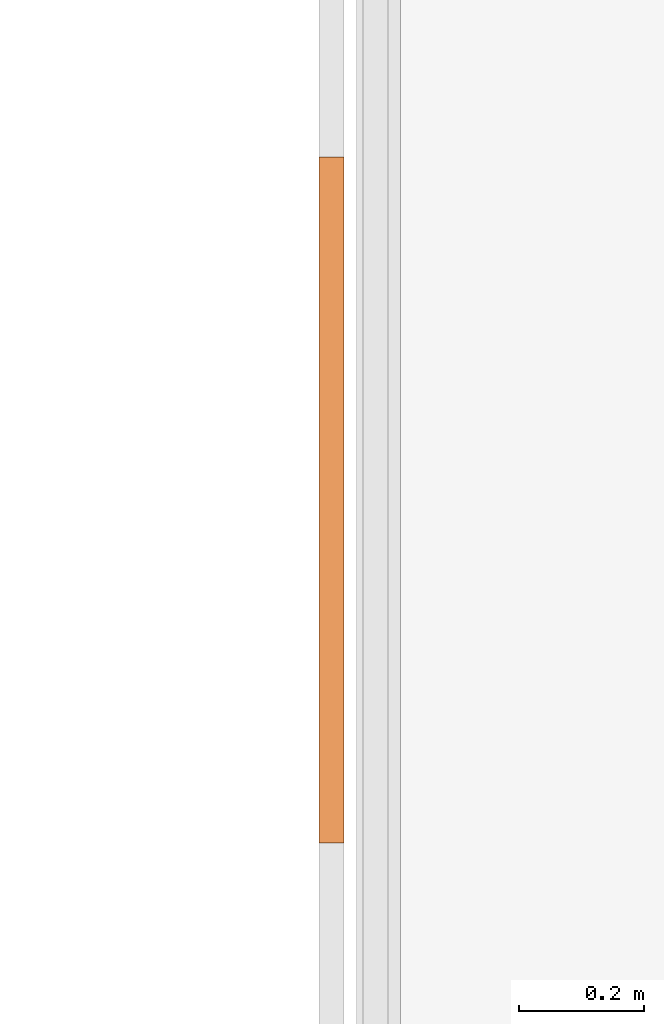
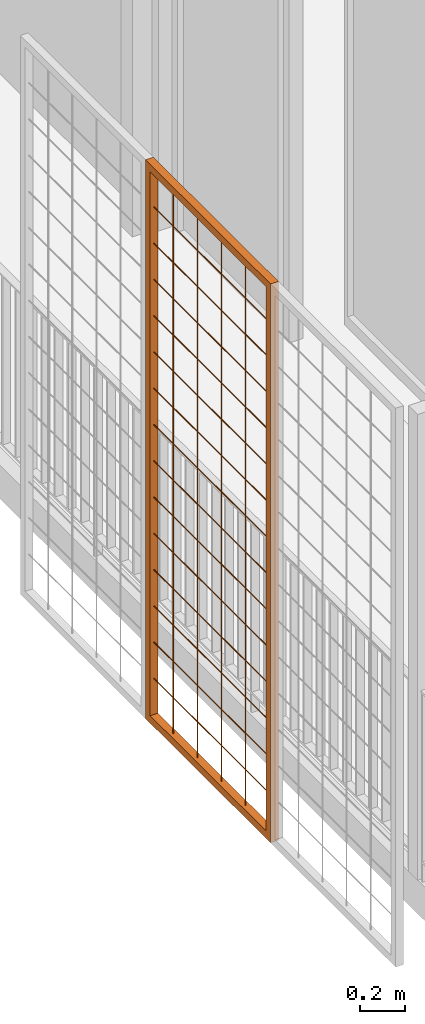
# One storey, part 41 of 51: 2 proxies.
"""IFC2X3 building model written with IfcOpenShell, lengths in metres."""

from ifc_helpers import new_model, entity, si_unit, converted_unit, derived_unit, direction, frame, frame_2d, origin, origin_2d_with_axis, place, context, subcontext, project, spatial, polyline, rectangle, outline, extrude, source, transform, mapped, material, type_object, type_shapes, element, save


model = new_model("IFC2X3")

# Units and contexts
model_context = context("Model", 3, precision=1e-05, world=origin(), true_north=direction((6.123031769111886e-17, 1.0)))
body_context = subcontext(model_context, "Body", "Model", "MODEL_VIEW")
ifc_project = project(units=[si_unit("LENGTHUNIT", "METRE"), si_unit("AREAUNIT", "SQUARE_METRE"), si_unit("VOLUMEUNIT", "CUBIC_METRE"), converted_unit("PLANEANGLEUNIT", "DEGREE", entity("IfcRatioMeasure", 0.017453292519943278), si_unit("PLANEANGLEUNIT", "RADIAN"), dimensions=[0, 0, 0, 0, 0, 0, 0]), si_unit("MASSUNIT", "GRAM", prefix="KILO"), derived_unit("MASSDENSITYUNIT", [(si_unit("MASSUNIT", "GRAM", prefix="KILO"), 1), (si_unit("LENGTHUNIT", "METRE"), -3)]), derived_unit("MOMENTOFINERTIAUNIT", [(si_unit("LENGTHUNIT", "METRE"), 4)]), si_unit("TIMEUNIT", "SECOND"), si_unit("FREQUENCYUNIT", "HERTZ"), si_unit("THERMODYNAMICTEMPERATUREUNIT", "DEGREE_CELSIUS"), derived_unit("THERMALTRANSMITTANCEUNIT", [(si_unit("MASSUNIT", "GRAM", prefix="KILO"), 1), (si_unit("THERMODYNAMICTEMPERATUREUNIT", "KELVIN"), -1), (si_unit("TIMEUNIT", "SECOND"), -3)]), derived_unit("THERMALCONDUCTANCEUNIT", [(si_unit("MASSUNIT", "GRAM", prefix="KILO"), 1), (si_unit("LENGTHUNIT", "METRE"), 1), (si_unit("THERMODYNAMICTEMPERATUREUNIT", "KELVIN"), -1), (si_unit("TIMEUNIT", "SECOND"), -3)]), derived_unit("VOLUMETRICFLOWRATEUNIT", [(si_unit("LENGTHUNIT", "METRE"), 3), (si_unit("TIMEUNIT", "SECOND"), -1)]), derived_unit("MASSFLOWRATEUNIT", [(si_unit("MASSUNIT", "GRAM", prefix="KILO"), 1), (si_unit("TIMEUNIT", "SECOND"), -1)]), derived_unit("ROTATIONALFREQUENCYUNIT", [(si_unit("TIMEUNIT", "SECOND"), -1)]), si_unit("ELECTRICCURRENTUNIT", "AMPERE"), si_unit("ELECTRICVOLTAGEUNIT", "VOLT"), si_unit("POWERUNIT", "WATT"), si_unit("FORCEUNIT", "NEWTON", prefix="KILO"), si_unit("ILLUMINANCEUNIT", "LUX"), si_unit("LUMINOUSFLUXUNIT", "LUMEN"), si_unit("LUMINOUSINTENSITYUNIT", "CANDELA"), derived_unit("USERDEFINED", [(si_unit("MASSUNIT", "GRAM", prefix="KILO"), -1), (si_unit("LENGTHUNIT", "METRE"), -2), (si_unit("TIMEUNIT", "SECOND"), 3), (si_unit("LUMINOUSFLUXUNIT", "LUMEN"), 1)]), derived_unit("USERDEFINED", [(si_unit("MASSUNIT", "GRAM", prefix="KILO"), 1), (si_unit("LENGTHUNIT", "METRE"), 3), (si_unit("TIMEUNIT", "SECOND"), -3), (si_unit("ELECTRICCURRENTUNIT", "AMPERE"), -2)]), derived_unit("USERDEFINED", [(si_unit("LENGTHUNIT", "METRE"), 2), (si_unit("TIMEUNIT", "SECOND"), -2)]), derived_unit("SOUNDPOWERUNIT", [(si_unit("MASSUNIT", "GRAM", prefix="KILO"), 1), (si_unit("LENGTHUNIT", "METRE"), 2), (si_unit("TIMEUNIT", "SECOND"), -3)]), derived_unit("SOUNDPRESSUREUNIT", [(si_unit("MASSUNIT", "GRAM", prefix="KILO"), 1), (si_unit("LENGTHUNIT", "METRE"), -1), (si_unit("TIMEUNIT", "SECOND"), -2)]), derived_unit("LINEARVELOCITYUNIT", [(si_unit("LENGTHUNIT", "METRE"), 1), (si_unit("TIMEUNIT", "SECOND"), -1)]), si_unit("PRESSUREUNIT", "PASCAL"), derived_unit("USERDEFINED", [(si_unit("LENGTHUNIT", "METRE"), -2), (si_unit("MASSUNIT", "GRAM", prefix="KILO"), 1), (si_unit("TIMEUNIT", "SECOND"), -2)]), derived_unit("LINEARFORCEUNIT", [(si_unit("MASSUNIT", "GRAM", prefix="KILO"), 1), (si_unit("LENGTHUNIT", "METRE"), 1), (si_unit("TIMEUNIT", "SECOND"), -2), (si_unit("LENGTHUNIT", "METRE"), -1)]), derived_unit("PLANARFORCEUNIT", [(si_unit("MASSUNIT", "GRAM", prefix="KILO"), 1), (si_unit("LENGTHUNIT", "METRE"), 1), (si_unit("TIMEUNIT", "SECOND"), -2), (si_unit("LENGTHUNIT", "METRE"), -2)]), derived_unit("SPECIFICHEATCAPACITYUNIT", [(si_unit("LENGTHUNIT", "METRE"), 2), (si_unit("TIMEUNIT", "SECOND"), -2), (si_unit("THERMODYNAMICTEMPERATUREUNIT", "KELVIN"), -1)]), derived_unit("VAPORPERMEABILITYUNIT", [(si_unit("TIMEUNIT", "SECOND"), 1), (si_unit("LENGTHUNIT", "METRE"), -1)]), derived_unit("DYNAMICVISCOSITYUNIT", [(si_unit("MASSUNIT", "GRAM", prefix="KILO"), 1), (si_unit("LENGTHUNIT", "METRE"), -1), (si_unit("TIMEUNIT", "SECOND"), -1)]), derived_unit("THERMALEXPANSIONCOEFFICIENTUNIT", [(si_unit("THERMODYNAMICTEMPERATUREUNIT", "KELVIN"), -1)])], contexts=[model_context])

# Site, building, storey
site_placement = place(None, origin())
site = spatial("IfcSite", under=ifc_project, at=site_placement, Name="Default", CompositionType="ELEMENT")
building_placement = place(site_placement, origin())
building = spatial("IfcBuilding", under=site, at=building_placement, CompositionType="ELEMENT")
storey_placement = place(building_placement, frame((0.0, 0.0, 3.06)))
storey = spatial("IfcBuildingStorey", under=building, at=storey_placement, Name="ÉTAGE", CompositionType="ELEMENT", Elevation=3.06)

# Proxies
ifc_material = material(Name="Peinture - Gris foncé")
building_element_proxy_type_1 = type_object("IfcBuildingElementProxyType", Name="Symb-0003", PredefinedType="NOTDEFINED", material=ifc_material)
shared_shape_1 = source(origin(), body_context, "Body", "SweptSolid", [
    extrude(outline(polyline([(-0.0011785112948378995, -0.002357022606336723), (0.0, -0.0023570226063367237), (0.001767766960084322, -0.0017677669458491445), (0.002357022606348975, 0.0), (0.0023570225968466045, 0.0011785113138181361), (0.0011785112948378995, 0.002357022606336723), (0.0, 0.002357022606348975), (-0.001767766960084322, 0.0017677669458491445), (-0.0023570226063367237, 0.0), (-0.0023570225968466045, -0.0011785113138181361), (-0.0011785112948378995, -0.002357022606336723)])), frame((139.86075228, 15.927209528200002, 6.7275), z_axis=(0.0, 1.0, 0.0), x_axis=(-0.7071067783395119, 0.0, -0.7071067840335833)), (0.0, 0.0, 1.0), 1.0199999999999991),
    extrude(outline(polyline([(-0.0011785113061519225, -0.0023570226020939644), (0.0, -0.002357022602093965), (0.0017677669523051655, -0.001767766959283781), (0.0023570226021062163, 0.0), (0.002357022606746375, 0.0011785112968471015), (0.0011785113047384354, 0.0023570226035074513), (0.0, 0.0023570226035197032), (-0.0017677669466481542, 0.0017677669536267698), (-0.002357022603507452, 0.0), (-0.0023570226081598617, -0.0011785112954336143), (-0.0011785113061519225, -0.0023570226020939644)])), frame((139.86075228, 15.927209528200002, 6.532833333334), z_axis=(0.0, 1.0, 0.0), x_axis=(-0.7071067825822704, 0.0, -0.7071067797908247)), (0.0, 0.0, 1.0), 1.0199999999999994),
    extrude(outline(polyline([(-0.001178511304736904, -0.002357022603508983), (0.0, -0.002357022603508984), (0.0017677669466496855, -0.001767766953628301), (0.002357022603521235, 0.0), (0.0023570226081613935, 0.0011785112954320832), (0.0011785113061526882, 0.002357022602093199), (0.0, 0.002357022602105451), (-0.0017677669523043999, 0.0017677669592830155), (-0.0023570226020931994, 0.0), (-0.0023570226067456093, -0.0011785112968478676), (-0.001178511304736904, -0.002357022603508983)])), frame((139.86075228, 15.927209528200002, 6.338166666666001), z_axis=(0.0, 1.0, 0.0), x_axis=(-0.7071067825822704, 0.0, -0.7071067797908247)), (0.0, 0.0, 1.0), 1.0199999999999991),
    extrude(outline(polyline([(-0.0011785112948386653, -0.0023570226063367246), (0.0, -0.0023570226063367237), (0.0017677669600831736, -0.001767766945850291), (0.002357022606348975, 0.0), (0.0023570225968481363, 0.001178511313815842), (0.0011785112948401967, 0.0023570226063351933), (0.0, 0.002357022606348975), (-0.001767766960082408, 0.0017677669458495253), (-0.0023570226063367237, 0.0), (-0.002357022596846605, -0.0011785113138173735), (-0.0011785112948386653, -0.0023570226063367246)])), frame((139.86075228, 15.927209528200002, 6.1435), z_axis=(0.0, 1.0, 0.0), x_axis=(-0.7071067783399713, 0.0, -0.7071067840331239)), (0.0, 0.0, 1.0), 1.0199999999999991),
    extrude(outline(polyline([(-0.0011785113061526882, -0.002357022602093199), (0.0, -0.0023570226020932), (0.0017677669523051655, -0.001767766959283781), (0.002357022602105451, 0.0), (0.0023570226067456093, 0.0011785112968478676), (0.0011785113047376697, 0.002357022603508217), (0.0, 0.0023570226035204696), (-0.0017677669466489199, 0.0017677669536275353), (-0.002357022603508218, 0.0), (-0.0023570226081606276, -0.0011785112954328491), (-0.0011785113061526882, -0.002357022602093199)])), frame((139.86075228, 15.927209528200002, 5.948833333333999), z_axis=(0.0, 1.0, 0.0), x_axis=(-0.7071067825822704, 0.0, -0.7071067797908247)), (0.0, 0.0, 1.0), 1.0199999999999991),
    extrude(outline(polyline([(-0.0011785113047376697, -0.002357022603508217), (0.0, -0.002357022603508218), (0.0017677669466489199, -0.0017677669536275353), (0.0023570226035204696, 0.0), (0.0023570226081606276, 0.0011785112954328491), (0.0011785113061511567, 0.0023570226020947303), (0.0, 0.0023570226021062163), (-0.0017677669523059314, 0.0017677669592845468), (-0.0023570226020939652, 0.0), (-0.0023570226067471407, -0.0011785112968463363), (-0.0011785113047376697, -0.002357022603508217)])), frame((139.86075228, 15.927209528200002, 5.754166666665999), z_axis=(0.0, 1.0, 0.0), x_axis=(-0.7071067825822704, 0.0, -0.7071067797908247)), (0.0, 0.0, 1.0), 1.0199999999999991),
    extrude(outline(polyline([(-0.001178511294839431, -0.0023570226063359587), (0.0, -0.002357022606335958), (0.001767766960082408, -0.0017677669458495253), (0.0023570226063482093, 0.0), (0.0023570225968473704, 0.0011785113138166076), (0.001178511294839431, 0.0023570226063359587), (0.0, 0.0023570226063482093), (-0.001767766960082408, 0.0017677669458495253), (-0.002357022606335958, 0.0), (-0.0023570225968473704, -0.0011785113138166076), (-0.001178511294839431, -0.0023570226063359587)])), frame((139.86075228, 15.927209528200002, 5.5595), z_axis=(0.0, 1.0, 0.0), x_axis=(-0.7071067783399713, 0.0, -0.7071067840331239)), (0.0, 0.0, 1.0), 1.0199999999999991),
    extrude(outline(polyline([(-0.0011785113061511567, -0.0023570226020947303), (0.0, -0.002357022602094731), (0.001767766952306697, -0.0017677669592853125), (0.002357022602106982, 0.0), (0.0023570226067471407, 0.0011785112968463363), (0.001178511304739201, 0.0023570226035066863), (0.0, 0.0023570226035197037), (-0.0017677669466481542, 0.0017677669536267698), (-0.002357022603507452, 0.0), (-0.0023570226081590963, -0.0011785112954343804), (-0.0011785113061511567, -0.0023570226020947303)])), frame((139.86075228, 15.927209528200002, 5.364833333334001), z_axis=(0.0, 1.0, 0.0), x_axis=(-0.7071067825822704, 0.0, -0.7071067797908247)), (0.0, 0.0, 1.0), 1.0199999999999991),
    extrude(outline(polyline([(-0.001178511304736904, -0.002357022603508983), (0.0, -0.002357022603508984), (0.0017677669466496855, -0.001767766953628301), (0.002357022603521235, 0.0), (0.0023570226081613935, 0.0011785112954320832), (0.0011785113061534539, 0.002357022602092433), (0.0, 0.002357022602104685), (-0.0017677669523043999, 0.0017677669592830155), (-0.002357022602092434, 0.0), (-0.0023570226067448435, -0.0011785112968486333), (-0.001178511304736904, -0.002357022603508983)])), frame((139.86075228, 15.927209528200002, 5.1701666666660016), z_axis=(0.0, 1.0, 0.0), x_axis=(-0.7071067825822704, 0.0, -0.7071067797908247)), (0.0, 0.0, 1.0), 1.0199999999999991),
    extrude(outline(polyline([(-0.001178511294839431, -0.0023570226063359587), (0.0, -0.002357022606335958), (0.001767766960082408, -0.0017677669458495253), (0.0023570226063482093, 0.0), (0.0023570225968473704, 0.0011785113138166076), (0.0011785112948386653, 0.0023570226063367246), (0.0, 0.0023570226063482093), (-0.0017677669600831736, 0.001767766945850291), (-0.002357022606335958, 0.0), (-0.0023570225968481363, -0.001178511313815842), (-0.001178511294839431, -0.0023570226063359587)])), frame((139.86075228, 15.927209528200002, 4.975499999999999), z_axis=(0.0, 1.0, 0.0), x_axis=(-0.7071067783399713, 0.0, -0.7071067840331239)), (0.0, 0.0, 1.0), 1.0199999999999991),
    extrude(outline(polyline([(-0.0011785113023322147, -0.0023570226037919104), (0.0, -0.002357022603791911), (0.0017677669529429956, -0.0017677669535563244), (0.002357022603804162, 0.0), (0.002357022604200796, 0.0011785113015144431), (0.0011785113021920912, 0.002357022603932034), (0.0, 0.0023570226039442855), (-0.001767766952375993, 0.0017677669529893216), (-0.0023570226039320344, 0.0), (-0.0023570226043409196, -0.0011785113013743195), (-0.0011785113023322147, -0.0023570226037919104)])), frame((139.86075228, 15.927209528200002, 4.780833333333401), z_axis=(0.0, 1.0, 0.0), x_axis=(-0.7071067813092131, 0.0, -0.7071067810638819)), (0.0, 0.0, 1.0), 1.0199999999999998),
    extrude(outline(polyline([(-0.0011785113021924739, -0.0023570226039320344), (0.0, -0.0023570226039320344), (0.0017677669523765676, -0.0017677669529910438), (0.002357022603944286, 0.0), (0.0023570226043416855, 0.0011785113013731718), (0.0011785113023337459, 0.002357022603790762), (0.0, 0.0023570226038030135), (-0.0017677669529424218, 0.0017677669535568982), (-0.0023570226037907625, 0.0), (-0.002357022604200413, -0.001178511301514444), (-0.0011785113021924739, -0.0023570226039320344)])), frame((139.86075228, 15.927209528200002, 4.5861666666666), z_axis=(0.0, 1.0, 0.0), x_axis=(-0.7071067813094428, 0.0, -0.7071067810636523)), (0.0, 0.0, 1.0), 1.0199999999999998),
    extrude(outline(polyline([(-0.0011785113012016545, -0.0023570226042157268), (0.0, -0.002357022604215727), (0.001767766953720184, -0.0017677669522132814), (0.0023570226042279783, 0.0), (0.0023570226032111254, 0.0011785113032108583), (0.001178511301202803, 0.0023570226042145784), (0.0, 0.002357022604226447), (-0.0017677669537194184, 0.0017677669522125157), (-0.002357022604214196, 0.0), (-0.0023570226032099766, -0.0011785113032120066), (-0.0011785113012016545, -0.0023570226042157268)])), frame((139.86075228, 15.927209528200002, 4.391500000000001), z_axis=(0.0, 1.0, 0.0), x_axis=(-0.707106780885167, 0.0, -0.707106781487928)), (0.0, 0.0, 1.0), 1.0199999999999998),
    extrude(outline(polyline([(-0.0011785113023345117, -0.0023570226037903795), (0.0, -0.0023570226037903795), (0.0017677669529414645, -0.0017677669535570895), (0.0023570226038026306, 0.0), (0.002357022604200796, 0.0011785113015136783), (0.001178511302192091, 0.0023570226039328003), (0.0, 0.002357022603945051), (-0.00176776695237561, 0.001767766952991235), (-0.0023570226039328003, 0.0), (-0.002357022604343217, -0.0011785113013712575), (-0.0011785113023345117, -0.0023570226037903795)])), frame((139.86075228, 15.927209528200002, 4.196833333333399), z_axis=(0.0, 1.0, 0.0), x_axis=(-0.7071067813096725, 0.0, -0.7071067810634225)), (0.0, 0.0, 1.0), 1.0199999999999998),
    extrude(outline(polyline([(-0.001178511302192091, -0.002357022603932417), (0.0, -0.0023570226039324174), (0.0017677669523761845, -0.0017677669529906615), (0.0023570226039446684, 0.0), (0.0023570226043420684, 0.0011785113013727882), (0.0011785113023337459, 0.002357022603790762), (0.0, 0.0023570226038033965), (-0.001767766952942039, 0.001767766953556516), (-0.0023570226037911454, 0.0), (-0.002357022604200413, -0.0011785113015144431), (-0.001178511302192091, -0.002357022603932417)])), frame((139.86075228, 15.927209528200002, 4.0021666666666), z_axis=(0.0, 1.0, 0.0), x_axis=(-0.7071067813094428, 0.0, -0.7071067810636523)), (0.0, 0.0, 1.0), 1.0199999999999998),
    extrude(rectangle(XDim=1.099999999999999, YDim=0.039999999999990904, at=frame_2d((-1.1102230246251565e-15, 0.0), x_axis=(1.0, 0.0))), frame((139.86075227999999, 16.4372095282, 6.73), z_axis=(0.0, 0.0, 1.0), x_axis=(0.0, 1.0, 0.0)), (0.0, 0.0, 1.0), 0.03999999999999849),
    extrude(rectangle(XDim=1.099999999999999, YDim=0.039999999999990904, at=frame_2d((-1.1102230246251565e-15, 0.0), x_axis=(1.0, 0.0))), frame((139.86075227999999, 16.4372095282, 3.7699999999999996), z_axis=(0.0, 0.0, 1.0), x_axis=(0.0, 1.0, 0.0)), (0.0, 0.0, 1.0), 0.04000000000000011),
    extrude(rectangle(XDim=0.03999999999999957, YDim=0.039999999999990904, at=origin_2d_with_axis()), frame((139.86075227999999, 15.907209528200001, 3.8099999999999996), z_axis=(0.0, 0.0, 1.0), x_axis=(0.0, 1.0, 0.0)), (0.0, 0.0, 1.0), 2.9200000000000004),
    extrude(rectangle(XDim=0.03999999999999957, YDim=0.039999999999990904, at=origin_2d_with_axis()), frame((139.86075227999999, 16.9672095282, 3.8099999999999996), z_axis=(0.0, 0.0, 1.0), x_axis=(0.0, 1.0, 0.0)), (0.0, 0.0, 1.0), 2.9200000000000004),
])
type_shapes(building_element_proxy_type_1, [shared_shape_1])
proxy_1_placement = place(storey_placement, frame((0.0, 0.0, -3.06)))
element("IfcBuildingElementProxy", 1, at=proxy_1_placement, inside=storey, type_object=building_element_proxy_type_1, material=ifc_material, Name="Symb-0003 284028:Symb-0003 284028", ObjectType="Symb-0003 284028:Symb-0003 284028", context=body_context, shape_type="MappedRepresentation", body=[
    mapped(shared_shape_1, transform((0.0, 0.0, 0.0), scale=1.0)),
])
building_element_proxy_type_2 = type_object("IfcBuildingElementProxyType", Name="Symb-0003", PredefinedType="NOTDEFINED", material=ifc_material)
shared_shape_2 = source(origin(), body_context, "Body", "SweptSolid", [
    extrude(outline(polyline([(-0.0011180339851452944, -0.002236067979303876), (0.0007453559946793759, -0.002236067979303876), (0.001863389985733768, -0.0018633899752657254), (0.0026087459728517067, -0.00037267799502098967), (0.002236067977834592, 0.0007453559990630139), (0.0011180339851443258, 0.002236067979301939), (-0.0007453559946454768, 0.0022360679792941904), (-0.001863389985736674, 0.001863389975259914), (-0.0026087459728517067, 0.00037267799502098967), (-0.0022360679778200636, -0.0007453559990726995), (-0.0011180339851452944, -0.002236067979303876)])), frame((139.86075228, 15.9297095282, 3.81), z_axis=(0.0, 0.0, 1.0), x_axis=(-0.8944271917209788, -0.44721359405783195, 0.0)), (0.0, 0.0, 1.0), 2.9200000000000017),
    extrude(outline(polyline([(-0.0011180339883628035, -0.002236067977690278), (0.0007453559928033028, -0.002236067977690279), (0.0018633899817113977, -0.001863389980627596), (0.002608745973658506, -0.0003726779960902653), (0.002236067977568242, 0.0007453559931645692), (0.0011180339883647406, 0.0022360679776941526), (-0.0007453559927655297, 0.002236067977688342), (-0.0018633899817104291, 0.001863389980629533), (-0.0026087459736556, 0.00037267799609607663), (-0.0022360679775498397, -0.0007453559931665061), (-0.0011180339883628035, -0.002236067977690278)])), frame((139.86075228, 16.141709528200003, 3.81), z_axis=(0.0, 0.0, 1.0), x_axis=(-0.8944271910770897, -0.4472135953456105, 0.0)), (0.0, 0.0, 1.0), 2.92),
    extrude(outline(polyline([(-0.0011180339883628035, -0.002236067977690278), (0.0007453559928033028, -0.002236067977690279), (0.0018633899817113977, -0.001863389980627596), (0.002608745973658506, -0.0003726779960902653), (0.002236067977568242, 0.0007453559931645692), (0.0011180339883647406, 0.0022360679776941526), (-0.0007453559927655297, 0.002236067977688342), (-0.0018633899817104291, 0.001863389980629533), (-0.0026087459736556, 0.00037267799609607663), (-0.0022360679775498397, -0.0007453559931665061), (-0.0011180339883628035, -0.002236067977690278)])), frame((139.86075228, 16.353709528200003, 3.81), z_axis=(0.0, 0.0, 1.0), x_axis=(-0.8944271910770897, -0.4472135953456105, 0.0)), (0.0, 0.0, 1.0), 2.92),
    extrude(outline(polyline([(-0.0011180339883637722, -0.0022360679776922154), (0.0007453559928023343, -0.0022360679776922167), (0.0018633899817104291, -0.001863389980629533), (0.002608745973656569, -0.00037267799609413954), (0.0022360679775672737, 0.0007453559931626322), (0.0011180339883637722, 0.0022360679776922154), (-0.0007453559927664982, 0.002236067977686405), (-0.0018633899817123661, 0.0018633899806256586), (-0.002608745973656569, 0.00037267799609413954), (-0.002236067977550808, -0.0007453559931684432), (-0.0011180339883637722, -0.0022360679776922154)])), frame((139.86075228, 16.5657095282, 3.81), z_axis=(0.0, 0.0, 1.0), x_axis=(-0.8944271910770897, -0.4472135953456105, 0.0)), (0.0, 0.0, 1.0), 2.92),
    extrude(outline(polyline([(-0.0011180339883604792, -0.00223606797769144), (0.0007453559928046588, -0.0022360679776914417), (0.0018633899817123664, -0.0018633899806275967), (0.002608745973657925, -0.0003726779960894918), (0.0022360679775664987, 0.0007453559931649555), (0.0011180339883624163, 0.002236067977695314), (-0.0007453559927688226, 0.0022360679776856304), (-0.0018633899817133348, 0.0018633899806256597), (-0.002608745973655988, 0.000372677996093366), (-0.0022360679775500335, -0.0007453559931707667), (-0.0011180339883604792, -0.00223606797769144)])), frame((139.86075228, 16.777709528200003, 3.81), z_axis=(0.0, 0.0, 1.0), x_axis=(-0.8944271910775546, -0.44721359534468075, 0.0)), (0.0, 0.0, 1.0), 2.92),
    extrude(rectangle(XDim=1.099999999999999, YDim=0.039999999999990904, at=frame_2d((-1.1102230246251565e-15, 0.0), x_axis=(1.0, 0.0))), frame((139.86075227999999, 16.4372095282, 6.73), z_axis=(0.0, 0.0, 1.0), x_axis=(0.0, 1.0, 0.0)), (0.0, 0.0, 1.0), 0.03999999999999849),
    extrude(rectangle(XDim=1.099999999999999, YDim=0.039999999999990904, at=frame_2d((-1.1102230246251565e-15, 0.0), x_axis=(1.0, 0.0))), frame((139.86075227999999, 16.4372095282, 3.7699999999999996), z_axis=(0.0, 0.0, 1.0), x_axis=(0.0, 1.0, 0.0)), (0.0, 0.0, 1.0), 0.04000000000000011),
    extrude(rectangle(XDim=0.03999999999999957, YDim=0.039999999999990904, at=origin_2d_with_axis()), frame((139.86075227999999, 15.907209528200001, 3.8099999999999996), z_axis=(0.0, 0.0, 1.0), x_axis=(0.0, 1.0, 0.0)), (0.0, 0.0, 1.0), 2.9200000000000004),
    extrude(rectangle(XDim=0.03999999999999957, YDim=0.039999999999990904, at=origin_2d_with_axis()), frame((139.86075227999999, 16.9672095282, 3.8099999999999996), z_axis=(0.0, 0.0, 1.0), x_axis=(0.0, 1.0, 0.0)), (0.0, 0.0, 1.0), 2.9200000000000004),
])
type_shapes(building_element_proxy_type_2, [shared_shape_2])
proxy_2_placement = place(storey_placement, frame((0.0, 0.0, -3.06)))
element("IfcBuildingElementProxy", 2, at=proxy_2_placement, inside=storey, type_object=building_element_proxy_type_2, material=ifc_material, Name="Symb-0003 464724:Symb-0003 464724", ObjectType="Symb-0003 464724:Symb-0003 464724", context=body_context, shape_type="MappedRepresentation", body=[
    mapped(shared_shape_2, transform((0.0, 0.0, 0.0), scale=1.0)),
])

save(model, "model.ifc")
